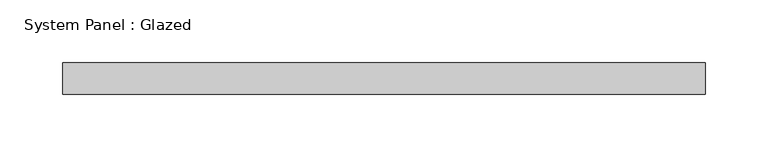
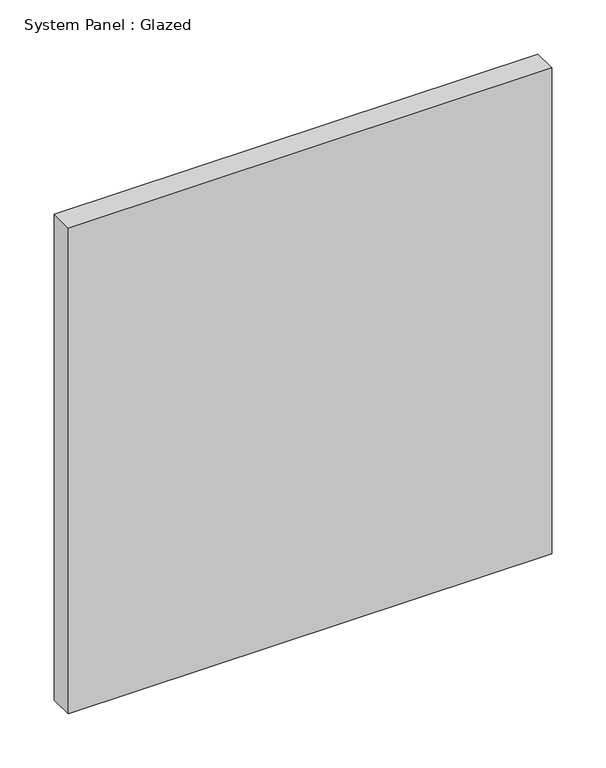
"""IFC4 building model written with IfcOpenShell, lengths in millimetres: plate geometry, System Panel : Glazed."""

import ifcopenshell
import ifcopenshell.guid

model = None  # the IFC model being written
_history = None  # IfcOwnerHistory: only IFC2X3 demands one
_inside = {}  # id of a spatial element -> (the spatial element, [elements in it])
_under = {}  # id of a project, library or spatial element -> (it, [spatial elements below it])
_declared = {}  # id of a project -> (the project, [libraries it declares])
_typed = {}  # id of a type object -> (the type object, [elements of that type])
_made_of = {}  # id of a material, layer set ... -> (it, [elements and type objects made of it])


def new_model(schema):
    """Start an empty IFC model of exactly this schema.

    Asked for "IFC4X3", IfcOpenShell would pick the latest addendum, in which some entities
    have other attributes; the version numbers below select the first issue.
    IFC2X3 requires an IfcOwnerHistory on every rooted entity: one is made here for all.
    """
    global model, _history
    if schema == "IFC4X3":
        model = ifcopenshell.file(schema_version=(4, 3, 0, 0))
    else:
        model = ifcopenshell.file(schema=schema)
    _inside.clear()
    _under.clear()
    _declared.clear()
    _typed.clear()
    _made_of.clear()
    _history = None
    if model.schema == "IFC2X3":
        org = make("IfcOrganization", Name="unknown")
        user = make(
            "IfcPersonAndOrganization",
            ThePerson=make("IfcPerson", FamilyName="unknown"),
            TheOrganization=org,
        )
        app = make(
            "IfcApplication",
            ApplicationDeveloper=org,
            Version="unknown",
            ApplicationFullName="unknown",
            ApplicationIdentifier="unknown",
        )
        _history = make(
            "IfcOwnerHistory",
            OwningUser=user,
            OwningApplication=app,
            ChangeAction="ADDED",
            CreationDate=0,
        )
    return model


def make(cls, **values):
    """One entity of the class cls with the attributes given. An attribute that is None is left unset."""
    return model.create_entity(
        cls, **{name: value for name, value in values.items() if value is not None}
    )


def rooted(cls, **values):
    """An entity with a GlobalId (a new one), such as an element, a storey or a relation."""
    return make(cls, GlobalId=ifcopenshell.guid.new(), OwnerHistory=_history, **values)


def si_unit(unit_type, name, prefix=None):
    """IfcSIUnit, for example si_unit("LENGTHUNIT", "METRE", prefix="MILLI")."""
    return make("IfcSIUnit", UnitType=unit_type, Prefix=prefix, Name=name)


def assignment(units):
    """IfcUnitAssignment: the units of a project."""
    return None if units is None else make("IfcUnitAssignment", Units=units)


def point(xyz):
    """IfcCartesianPoint."""
    return None if xyz is None else make("IfcCartesianPoint", Coordinates=xyz)


def direction(xyz):
    """IfcDirection."""
    return None if xyz is None else make("IfcDirection", DirectionRatios=xyz)


def frame(location, z_axis=None, x_axis=None):
    """IfcAxis2Placement3D, a coordinate frame: its origin and axes. An axis left out is left unset."""
    return make(
        "IfcAxis2Placement3D",
        Location=point(location),
        Axis=direction(z_axis),
        RefDirection=direction(x_axis),
    )


def origin():
    """The frame at (0, 0, 0) with its axes left unset."""
    return frame((0.0, 0.0, 0.0))


def origin_with_axes():
    """The frame at (0, 0, 0) with the z axis (0, 0, 1) and the x axis (1, 0, 0) written out."""
    return frame((0.0, 0.0, 0.0), z_axis=(0.0, 0.0, 1.0), x_axis=(1.0, 0.0, 0.0))


def place(relative_to, where):
    """IfcLocalPlacement: puts the frame where relative to a parent placement (None: the world)."""
    return make(
        "IfcLocalPlacement", PlacementRelTo=relative_to, RelativePlacement=where
    )


def context(
    kind, dimensions, precision=None, world=None, true_north=None, identifier=None
):
    """IfcGeometricRepresentationContext, for example the 3D "Model" context."""
    return make(
        "IfcGeometricRepresentationContext",
        ContextIdentifier=identifier,
        ContextType=kind,
        CoordinateSpaceDimension=dimensions,
        Precision=precision,
        WorldCoordinateSystem=world,
        TrueNorth=true_north,
    )


def project(units=None, contexts=None):
    """IfcProject with its units and contexts."""
    return rooted(
        "IfcProject",
        Name="project",
        RepresentationContexts=contexts,
        UnitsInContext=assignment(units),
    )


def spatial(cls, under=None, at=None, **own):
    """A site, building, storey or space (cls), placed at a placement, below another one or the project."""
    s = rooted(cls, ObjectPlacement=at, **own)
    if under is not None:
        _under.setdefault(under.id(), (under, []))[1].append(s)
    return s


def polyline(points):
    """IfcPolyline through the points."""
    return make("IfcPolyline", Points=[point(p) for p in points])


def outline(outer, holes=None, kind="AREA"):
    """IfcArbitraryClosedProfileDef: a profile drawn as a closed curve; with holes, ...WithVoids."""
    if holes is None:
        return make("IfcArbitraryClosedProfileDef", ProfileType=kind, OuterCurve=outer)
    return make(
        "IfcArbitraryProfileDefWithVoids",
        ProfileType=kind,
        OuterCurve=outer,
        InnerCurves=holes,
    )


def extrude(swept, where, along, depth):
    """IfcExtrudedAreaSolid: the profile swept, set in the frame where, extruded along a direction by depth."""
    return make(
        "IfcExtrudedAreaSolid",
        SweptArea=swept,
        Position=where,
        ExtrudedDirection=direction(along),
        Depth=depth,
    )


def shape(context_of_items, identifier, shape_type, items):
    """IfcShapeRepresentation: the items that make up one representation, for example the "Body"."""
    return make(
        "IfcShapeRepresentation",
        ContextOfItems=context_of_items,
        RepresentationIdentifier=identifier,
        RepresentationType=shape_type,
        Items=items,
    )


def source(mapping_origin, context_of_items, identifier, shape_type, items):
    """IfcRepresentationMap: a shape defined once, which mapped items show again and again."""
    return make(
        "IfcRepresentationMap",
        MappingOrigin=mapping_origin,
        MappedRepresentation=shape(context_of_items, identifier, shape_type, items),
    )


def transform(
    local_origin,
    x_axis=None,
    y_axis=None,
    z_axis=None,
    scale=None,
    scale2=None,
    scale3=None,
    uniform=True,
):
    """IfcCartesianTransformationOperator3D, or its non-uniform kind. x_axis, y_axis, z_axis: its Axis1, 2, 3."""
    if uniform:
        return make(
            "IfcCartesianTransformationOperator3D",
            Axis1=direction(x_axis),
            Axis2=direction(y_axis),
            LocalOrigin=point(local_origin),
            Scale=scale,
            Axis3=direction(z_axis),
        )
    return make(
        "IfcCartesianTransformationOperator3DnonUniform",
        Axis1=direction(x_axis),
        Axis2=direction(y_axis),
        LocalOrigin=point(local_origin),
        Scale=scale,
        Axis3=direction(z_axis),
        Scale2=scale2,
        Scale3=scale3,
    )


def mapped(mapping_source, mapping_target):
    """IfcMappedItem: shows the shape of a source again, moved by a transform."""
    return make(
        "IfcMappedItem", MappingSource=mapping_source, MappingTarget=mapping_target
    )


def made_of(thing, what):
    """Note that an element or type object is made of a material, layer set ...; save() writes the relation."""
    if what is not None:
        _made_of.setdefault(what.id(), (what, []))[1].append(thing)
    return thing


def element(
    cls,
    number,
    at=None,
    inside=None,
    cuts=None,
    type_object=None,
    material=None,
    context=None,
    identifier="Body",
    shape_type=None,
    held_by="IfcProductDefinitionShape",
    body=None,
    shapes=None,
    **own,
):
    """One element of the class cls, such as IfcWall. Its Tag is "e" and its number.

    at: its placement. inside: the storey or other place that contains it. cuts: it is an
    opening in that element (IfcRelVoidsElement). A single representation is given by context,
    identifier, shape_type and body (its items); several are given by shapes. held_by: the class
    of the entity that holds the representations. save() writes the other relations.
    """
    e = rooted(cls, Tag="e%d" % number, ObjectPlacement=at, **own)
    if body is not None:
        shapes = [shape(context, identifier, shape_type, body)]
    if shapes is not None:
        e.Representation = make(held_by, Representations=shapes)
    if inside is not None:
        _inside.setdefault(inside.id(), (inside, []))[1].append(e)
    if cuts is not None:
        rooted(
            "IfcRelVoidsElement", RelatingBuildingElement=cuts, RelatedOpeningElement=e
        )
    if type_object is not None:
        _typed.setdefault(type_object.id(), (type_object, []))[1].append(e)
    return made_of(e, material)


def aggregate(whole, parts):
    """IfcRelAggregates: a whole, such as a stair, and the parts it consists of."""
    return rooted("IfcRelAggregates", RelatingObject=whole, RelatedObjects=parts)


def save(model, path):
    """Write the relations noted so far, then the file.

    IfcRelAggregates (storeys below a building ...), IfcRelContainedInSpatialStructure (elements
    in a storey), IfcRelDefinesByType, IfcRelAssociatesMaterial and IfcRelDeclares: one each for
    every whole, place, type object, material and project.
    """
    for whole, parts in _under.values():
        aggregate(whole, parts)
    for where, things in _inside.values():
        rooted(
            "IfcRelContainedInSpatialStructure",
            RelatedElements=things,
            RelatingStructure=where,
        )
    for kind, things in _typed.values():
        rooted("IfcRelDefinesByType", RelatedObjects=things, RelatingType=kind)
    for what, things in _made_of.values():
        rooted("IfcRelAssociatesMaterial", RelatedObjects=things, RelatingMaterial=what)
    for by, libraries in _declared.values():
        rooted("IfcRelDeclares", RelatingContext=by, RelatedDefinitions=libraries)
    model.write(path)


def system_panel_glazed_c8e71bd0(model_context):
    return source(origin(), model_context, "Body", "SweptSolid", [
        extrude(outline(polyline([(257.175, -44.45), (-257.175, -44.45), (-257.175, -19.05), (257.175, -19.05), (257.175, -44.45)])), origin_with_axes(), (0.0, 0.0, 1.0), 546.1),
    ])


if __name__ == "__main__":
    model = new_model("IFC4")
    model_context = context("Model", 3, world=origin())
    ifc_project = project(units=[si_unit("LENGTHUNIT", "METRE", prefix="MILLI")], contexts=[model_context])
    site = spatial("IfcSite", under=ifc_project)
    building = spatial("IfcBuilding", under=site)
    placement = place(None, origin())
    system_panel_glazed_shape = system_panel_glazed_c8e71bd0(model_context)
    element("IfcPlate", 1, ObjectType="System Panel : Glazed", at=placement, inside=building, context=model_context, shape_type="MappedRepresentation", body=[
        mapped(system_panel_glazed_shape, transform((0.0, 0.0, 0.0), x_axis=(1.0, 0.0, 0.0), y_axis=(0.0, 1.0, 0.0), z_axis=(0.0, 0.0, 1.0))),
    ])
    save(model, "model.ifc")
